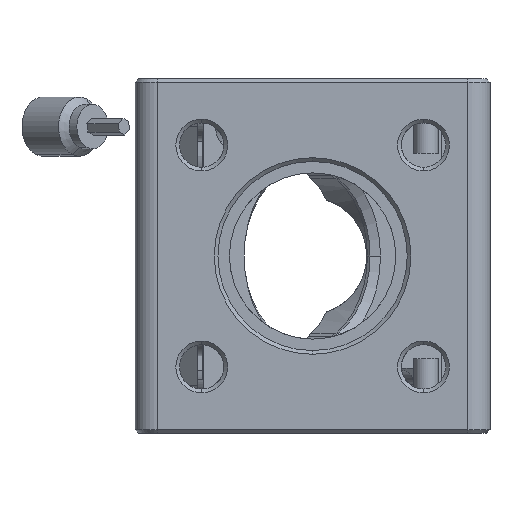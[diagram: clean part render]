
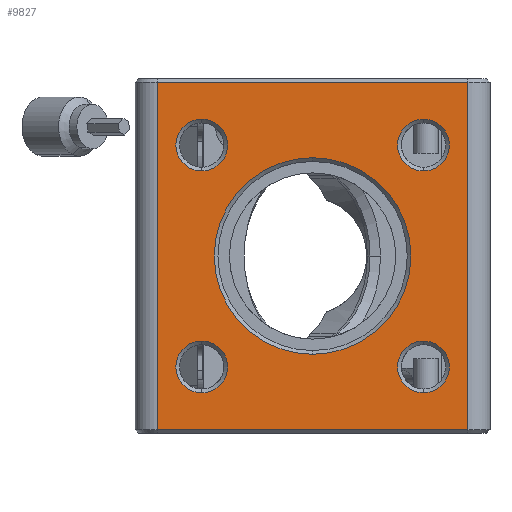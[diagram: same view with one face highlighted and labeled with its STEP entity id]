
A CAD part, front view. The second image highlights one B-rep face of the part: STEP entity #9827.
In plain terms, the highlighted planar face has unit normal (0, -1, 0).
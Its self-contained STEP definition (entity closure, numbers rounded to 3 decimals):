
#173 = ORIENTED_EDGE ( 'NONE', *, *, #51355, .T. ) ;
#1364 = CARTESIAN_POINT ( 'NONE',  ( -7.968, -22.135, 61.6 ) ) ;
#1757 = DIRECTION ( 'NONE',  ( 0., 1., 0. ) ) ;
#1964 = CARTESIAN_POINT ( 'NONE',  ( 7.032, -22.135, 59.8 ) ) ;
#2116 = VERTEX_POINT ( 'NONE', #5418 ) ;
#2487 = CIRCLE ( 'NONE', #11947, 3.5 ) ;
#3203 = CARTESIAN_POINT ( 'NONE',  ( -22.968, -22.135, 36.8 ) ) ;
#3975 = ORIENTED_EDGE ( 'NONE', *, *, #44930, .T. ) ;
#4476 = VERTEX_POINT ( 'NONE', #22714 ) ;
#4989 = EDGE_CURVE ( 'NONE', #10928, #53095, #26190, .T. ) ;
#5418 = CARTESIAN_POINT ( 'NONE',  ( -22.968, -22.135, 66.8 ) ) ;
#5799 = FACE_BOUND ( 'NONE', #36870, .T. ) ;
#6114 = ORIENTED_EDGE ( 'NONE', *, *, #8454, .T. ) ;
#6491 = VERTEX_POINT ( 'NONE', #14268 ) ;
#6857 = EDGE_CURVE ( 'NONE', #6491, #45662, #8182, .T. ) ;
#7056 = VERTEX_POINT ( 'NONE', #37118 ) ;
#8182 = CIRCLE ( 'NONE', #28763, 3.5 ) ;
#8454 = EDGE_CURVE ( 'NONE', #17197, #50355, #46935, .T. ) ;
#9827 = ADVANCED_FACE ( 'NONE', ( #34523, #5799, #26449, #18375, #51977, #10837 ), #50935, .F. ) ;
#10101 = ORIENTED_EDGE ( 'NONE', *, *, #4989, .T. ) ;
#10522 = EDGE_CURVE ( 'NONE', #53095, #10928, #10945, .T. ) ;
#10800 = DIRECTION ( 'NONE',  ( 0., 1., 0. ) ) ;
#10837 = FACE_OUTER_BOUND ( 'NONE', #24259, .T. ) ;
#10928 = VERTEX_POINT ( 'NONE', #1964 ) ;
#10945 = CIRCLE ( 'NONE', #21304, 3.5 ) ;
#11107 = CARTESIAN_POINT ( 'NONE',  ( -31.968, -22.135, 72.3 ) ) ;
#11224 = EDGE_LOOP ( 'NONE', ( #6114, #34094 ) ) ;
#11231 = DIRECTION ( 'NONE',  ( 0., 1., 0. ) ) ;
#11718 = CARTESIAN_POINT ( 'NONE',  ( -31.968, -22.135, 24.8 ) ) ;
#11947 = AXIS2_PLACEMENT_3D ( 'NONE', #15670, #12443, #32582 ) ;
#12443 = DIRECTION ( 'NONE',  ( 0., 1., 0. ) ) ;
#13316 = AXIS2_PLACEMENT_3D ( 'NONE', #26800, #43198, #51559 ) ;
#13775 = LINE ( 'NONE', #30693, #27875 ) ;
#14268 = CARTESIAN_POINT ( 'NONE',  ( 7.032, -22.135, 36.8 ) ) ;
#14497 = DIRECTION ( 'NONE',  ( 0., 0., 1. ) ) ;
#14684 = CARTESIAN_POINT ( 'NONE',  ( 7.032, -22.135, 33.3 ) ) ;
#15670 = CARTESIAN_POINT ( 'NONE',  ( -22.968, -22.135, 33.3 ) ) ;
#15705 = ORIENTED_EDGE ( 'NONE', *, *, #51108, .T. ) ;
#16721 = ORIENTED_EDGE ( 'NONE', *, *, #38902, .T. ) ;
#17197 = VERTEX_POINT ( 'NONE', #36374 ) ;
#18168 = CARTESIAN_POINT ( 'NONE',  ( 7.032, -22.135, 66.8 ) ) ;
#18344 = VERTEX_POINT ( 'NONE', #33673 ) ;
#18375 = FACE_BOUND ( 'NONE', #36274, .T. ) ;
#18772 = VECTOR ( 'NONE', #40579, 1000. ) ;
#19238 = CIRCLE ( 'NONE', #22715, 3.5 ) ;
#19348 = LINE ( 'NONE', #52155, #18772 ) ;
#19422 = DIRECTION ( 'NONE',  ( 0., 0., 1. ) ) ;
#19932 = CARTESIAN_POINT ( 'NONE',  ( 7.032, -22.135, 33.3 ) ) ;
#20156 = CIRCLE ( 'NONE', #13316, 3.5 ) ;
#20622 = VERTEX_POINT ( 'NONE', #22689 ) ;
#20852 = DIRECTION ( 'NONE',  ( 0., 1., 0. ) ) ;
#21147 = CIRCLE ( 'NONE', #39167, 3.5 ) ;
#21163 = ORIENTED_EDGE ( 'NONE', *, *, #46671, .T. ) ;
#21304 = AXIS2_PLACEMENT_3D ( 'NONE', #31036, #47430, #22965 ) ;
#21871 = EDGE_CURVE ( 'NONE', #50355, #17197, #48395, .T. ) ;
#22619 = CARTESIAN_POINT ( 'NONE',  ( 13.032, -22.135, 24.8 ) ) ;
#22650 = DIRECTION ( 'NONE',  ( 0., 0., 1. ) ) ;
#22689 = CARTESIAN_POINT ( 'NONE',  ( -28.968, -22.135, 24.8 ) ) ;
#22714 = CARTESIAN_POINT ( 'NONE',  ( -28.968, -22.135, 71.8 ) ) ;
#22715 = AXIS2_PLACEMENT_3D ( 'NONE', #14684, #43704, #39667 ) ;
#22965 = DIRECTION ( 'NONE',  ( 0., 0., 1. ) ) ;
#23857 = ORIENTED_EDGE ( 'NONE', *, *, #42967, .T. ) ;
#24259 = EDGE_LOOP ( 'NONE', ( #49364, #15705, #173, #21163 ) ) ;
#24651 = VECTOR ( 'NONE', #32128, 1000. ) ;
#25626 = VECTOR ( 'NONE', #30354, 1000. ) ;
#25867 = DIRECTION ( 'NONE',  ( 0., 1., 0. ) ) ;
#26190 = CIRCLE ( 'NONE', #34802, 3.5 ) ;
#26449 = FACE_BOUND ( 'NONE', #40968, .T. ) ;
#26619 = EDGE_CURVE ( 'NONE', #18344, #33013, #20156, .T. ) ;
#26800 = CARTESIAN_POINT ( 'NONE',  ( -22.968, -22.135, 33.3 ) ) ;
#27519 = DIRECTION ( 'NONE',  ( 0., 0., 1. ) ) ;
#27735 = DIRECTION ( 'NONE',  ( 0., 0., 1. ) ) ;
#27835 = LINE ( 'NONE', #11718, #24651 ) ;
#27875 = VECTOR ( 'NONE', #37693, 1000. ) ;
#28720 = EDGE_LOOP ( 'NONE', ( #10101, #46789 ) ) ;
#28763 = AXIS2_PLACEMENT_3D ( 'NONE', #19932, #10800, #27735 ) ;
#29260 = DIRECTION ( 'NONE',  ( 0., 1., 0. ) ) ;
#29699 = CARTESIAN_POINT ( 'NONE',  ( 7.032, -22.135, 29.8 ) ) ;
#29833 = LINE ( 'NONE', #42443, #25626 ) ;
#30354 = DIRECTION ( 'NONE',  ( 0., 0., -1. ) ) ;
#30693 = CARTESIAN_POINT ( 'NONE',  ( 13.032, -22.135, 72.3 ) ) ;
#31036 = CARTESIAN_POINT ( 'NONE',  ( 7.032, -22.135, 63.3 ) ) ;
#32128 = DIRECTION ( 'NONE',  ( 1., 0., 0. ) ) ;
#32582 = DIRECTION ( 'NONE',  ( 0., 0., 1. ) ) ;
#33010 = DIRECTION ( 'NONE',  ( 0., 0., 1. ) ) ;
#33013 = VERTEX_POINT ( 'NONE', #3203 ) ;
#33673 = CARTESIAN_POINT ( 'NONE',  ( -22.968, -22.135, 29.8 ) ) ;
#33768 = AXIS2_PLACEMENT_3D ( 'NONE', #41816, #20852, #49359 ) ;
#33986 = EDGE_CURVE ( 'NONE', #33013, #18344, #2487, .T. ) ;
#34094 = ORIENTED_EDGE ( 'NONE', *, *, #21871, .T. ) ;
#34523 = FACE_BOUND ( 'NONE', #28720, .T. ) ;
#34802 = AXIS2_PLACEMENT_3D ( 'NONE', #37041, #29260, #33010 ) ;
#35438 = CARTESIAN_POINT ( 'NONE',  ( -22.968, -22.135, 63.3 ) ) ;
#36105 = CARTESIAN_POINT ( 'NONE',  ( -22.968, -22.135, 63.3 ) ) ;
#36274 = EDGE_LOOP ( 'NONE', ( #49916, #40322 ) ) ;
#36374 = CARTESIAN_POINT ( 'NONE',  ( -7.968, -22.135, 35. ) ) ;
#36870 = EDGE_LOOP ( 'NONE', ( #23857, #50123 ) ) ;
#37041 = CARTESIAN_POINT ( 'NONE',  ( 7.032, -22.135, 63.3 ) ) ;
#37118 = CARTESIAN_POINT ( 'NONE',  ( 13.032, -22.135, 71.8 ) ) ;
#37693 = DIRECTION ( 'NONE',  ( 0., 0., 1. ) ) ;
#38015 = AXIS2_PLACEMENT_3D ( 'NONE', #35438, #11231, #14497 ) ;
#38686 = CARTESIAN_POINT ( 'NONE',  ( -22.968, -22.135, 59.8 ) ) ;
#38902 = EDGE_CURVE ( 'NONE', #50612, #2116, #45775, .T. ) ;
#39167 = AXIS2_PLACEMENT_3D ( 'NONE', #36105, #49263, #19422 ) ;
#39286 = AXIS2_PLACEMENT_3D ( 'NONE', #11107, #1757, #27519 ) ;
#39667 = DIRECTION ( 'NONE',  ( 0., 0., 1. ) ) ;
#40322 = ORIENTED_EDGE ( 'NONE', *, *, #33986, .T. ) ;
#40438 = VERTEX_POINT ( 'NONE', #22619 ) ;
#40579 = DIRECTION ( 'NONE',  ( -1., 0., 0. ) ) ;
#40968 = EDGE_LOOP ( 'NONE', ( #16721, #3975 ) ) ;
#41676 = EDGE_CURVE ( 'NONE', #40438, #7056, #13775, .T. ) ;
#41773 = AXIS2_PLACEMENT_3D ( 'NONE', #43073, #25867, #22650 ) ;
#41816 = CARTESIAN_POINT ( 'NONE',  ( -7.968, -22.135, 48.3 ) ) ;
#42443 = CARTESIAN_POINT ( 'NONE',  ( -28.968, -22.135, 72.3 ) ) ;
#42967 = EDGE_CURVE ( 'NONE', #45662, #6491, #19238, .T. ) ;
#43073 = CARTESIAN_POINT ( 'NONE',  ( -7.968, -22.135, 48.3 ) ) ;
#43198 = DIRECTION ( 'NONE',  ( 0., 1., 0. ) ) ;
#43704 = DIRECTION ( 'NONE',  ( 0., 1., 0. ) ) ;
#44930 = EDGE_CURVE ( 'NONE', #2116, #50612, #21147, .T. ) ;
#45662 = VERTEX_POINT ( 'NONE', #29699 ) ;
#45775 = CIRCLE ( 'NONE', #38015, 3.5 ) ;
#46671 = EDGE_CURVE ( 'NONE', #20622, #40438, #27835, .T. ) ;
#46789 = ORIENTED_EDGE ( 'NONE', *, *, #10522, .T. ) ;
#46935 = CIRCLE ( 'NONE', #41773, 13.3 ) ;
#47430 = DIRECTION ( 'NONE',  ( 0., 1., 0. ) ) ;
#48395 = CIRCLE ( 'NONE', #33768, 13.3 ) ;
#49263 = DIRECTION ( 'NONE',  ( 0., 1., 0. ) ) ;
#49359 = DIRECTION ( 'NONE',  ( 0., 0., 1. ) ) ;
#49364 = ORIENTED_EDGE ( 'NONE', *, *, #41676, .T. ) ;
#49916 = ORIENTED_EDGE ( 'NONE', *, *, #26619, .T. ) ;
#50123 = ORIENTED_EDGE ( 'NONE', *, *, #6857, .T. ) ;
#50355 = VERTEX_POINT ( 'NONE', #1364 ) ;
#50612 = VERTEX_POINT ( 'NONE', #38686 ) ;
#50935 = PLANE ( 'NONE',  #39286 ) ;
#51108 = EDGE_CURVE ( 'NONE', #7056, #4476, #19348, .T. ) ;
#51355 = EDGE_CURVE ( 'NONE', #4476, #20622, #29833, .T. ) ;
#51559 = DIRECTION ( 'NONE',  ( 0., 0., 1. ) ) ;
#51977 = FACE_BOUND ( 'NONE', #11224, .T. ) ;
#52155 = CARTESIAN_POINT ( 'NONE',  ( -28.968, -22.135, 71.8 ) ) ;
#53095 = VERTEX_POINT ( 'NONE', #18168 ) ;
